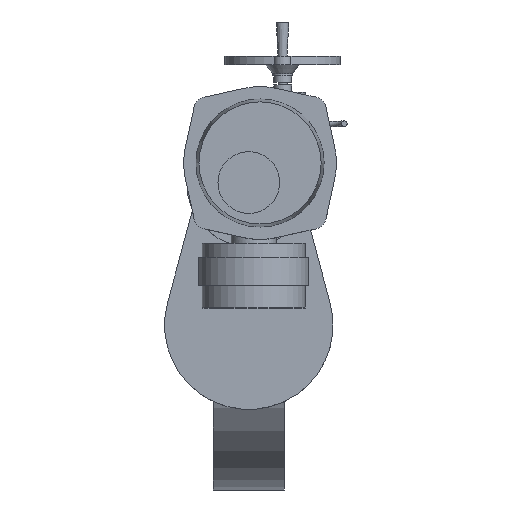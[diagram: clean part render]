
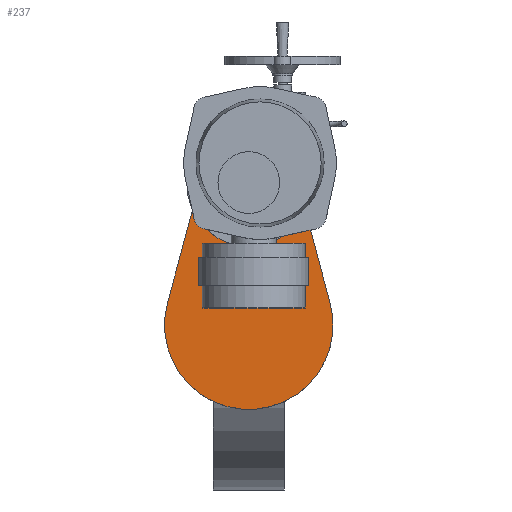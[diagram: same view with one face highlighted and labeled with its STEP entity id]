
A CAD part, top view. The second image highlights one B-rep face of the part: STEP entity #237.
In plain terms, the highlighted planar face has unit normal (0, 0, 1).
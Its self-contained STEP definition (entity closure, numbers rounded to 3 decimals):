
#237=ADVANCED_FACE('',(#8081),#8083,.F.);
#8081=FACE_BOUND('',#8082,.T.);
#8082=EDGE_LOOP('',(#14290,#14291,#14292,#14293,#14294));
#8083=PLANE('',#8084);
#8084=AXIS2_PLACEMENT_3D('',#8085,#8086,#8087);
#8085=CARTESIAN_POINT('',(20.,288.,570.));
#8086=DIRECTION('',(0.,0.,-1.));
#8087=DIRECTION('',(0.,1.,0.));
#14290=ORIENTED_EDGE('',*,*,#18996,.T.);
#14291=ORIENTED_EDGE('',*,*,#18997,.T.);
#14292=ORIENTED_EDGE('',*,*,#18998,.F.);
#14293=ORIENTED_EDGE('',*,*,#18970,.F.);
#14294=ORIENTED_EDGE('',*,*,#18999,.F.);
#18970=EDGE_CURVE('',#21360,#21361,#21362,.T.);
#18996=EDGE_CURVE('',#21409,#21410,#21411,.F.);
#18997=EDGE_CURVE('',#21410,#21412,#21413,.F.);
#18998=EDGE_CURVE('',#21361,#21412,#21414,.T.);
#18999=EDGE_CURVE('',#21409,#21360,#21415,.T.);
#21360=VERTEX_POINT('',#25413);
#21361=VERTEX_POINT('',#25414);
#21362=CIRCLE('',#25415,150.);
#21409=VERTEX_POINT('',#25538);
#21410=VERTEX_POINT('',#25539);
#21411=CIRCLE('',#25540,85.);
#21412=VERTEX_POINT('',#25544);
#21413=CIRCLE('',#25545,85.);
#21414=LINE('',#25549,#25550);
#21415=LINE('',#25552,#25553);
#25413=CARTESIAN_POINT('',(144.841,39.,570.));
#25414=CARTESIAN_POINT('',(-144.841,39.,570.));
#25415=AXIS2_PLACEMENT_3D('',#25416,#25417,#25418);
#25416=CARTESIAN_POINT('',(0.,0.,570.));
#25417=DIRECTION('',(0.,0.,-1.));
#25418=DIRECTION('',(0.966,0.26,0.));
#25538=CARTESIAN_POINT('',(82.077,272.1,570.));
#25539=CARTESIAN_POINT('',(0.,165.,570.));
#25540=AXIS2_PLACEMENT_3D('',#25541,#25542,#25543);
#25541=CARTESIAN_POINT('',(0.,250.,570.));
#25542=DIRECTION('',(0.,0.,1.));
#25543=DIRECTION('',(0.,-1.,0.));
#25544=CARTESIAN_POINT('',(-82.077,272.1,570.));
#25545=AXIS2_PLACEMENT_3D('',#25546,#25547,#25548);
#25546=CARTESIAN_POINT('',(0.,250.,570.));
#25547=DIRECTION('',(0.,0.,1.));
#25548=DIRECTION('',(-0.966,0.26,0.));
#25549=CARTESIAN_POINT('',(-144.841,39.,570.));
#25550=VECTOR('',#25551,1.);
#25551=DIRECTION('',(0.26,0.966,0.));
#25552=CARTESIAN_POINT('',(82.077,272.1,570.));
#25553=VECTOR('',#25554,1.);
#25554=DIRECTION('',(0.26,-0.966,0.));
